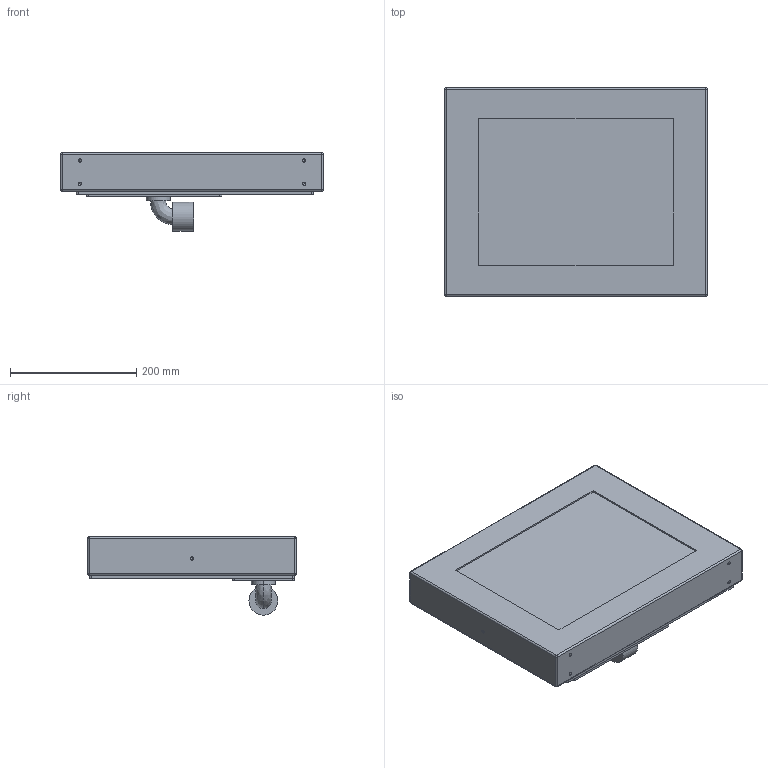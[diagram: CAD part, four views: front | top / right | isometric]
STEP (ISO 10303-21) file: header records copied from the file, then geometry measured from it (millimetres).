
FILE_DESCRIPTION (( 'STEP AP214' ), '1' );
FILE_NAME ('15 inch Universal Mount Monitor, HIS-UM15-xxxH, with KVM2EXT and CP-CON.STEP', '2019-11-18T20:48:21', ( '' ), ( '' ), 'SwSTEP 2.0', 'SolidWorks 2017', '' );
FILE_SCHEMA (( 'AUTOMOTIVE_DESIGN' ));
Length unit declared in the file: inch
Products named in the file (1): 15 inch Universal Mount Monitor, HIS-UM15-xxxH, with KVM2EXT and CP-CON
Bounding box: 416.56 x 330.2 x 124.16 mm (x, y, z)
Volume: 8945813.9 mm3; surface area: 388014 mm2
Topology: 1 solids, 1 shells, 104 faces, 248 edges, 134 vertices
Faces by surface type: cylinder 44, plane 30, cone 20, sphere 8, bspline 2
Entity records: 3690 total; most frequent: CARTESIAN_POINT 519, DIRECTION 516, ORIENTED_EDGE 440, EDGE_CURVE 220, AXIS2_PLACEMENT_3D 195, VERTEX_POINT 134, VECTOR 126, LINE 126
